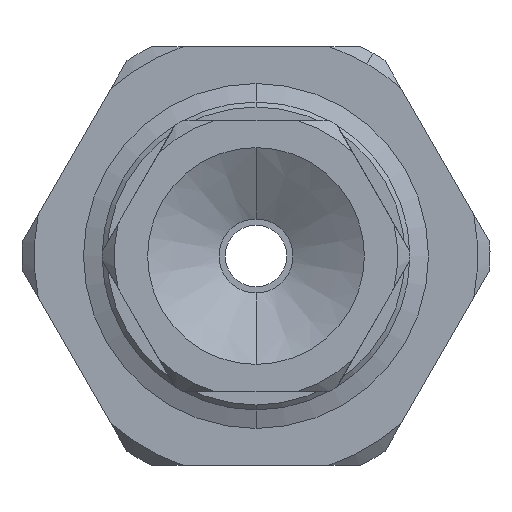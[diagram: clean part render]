
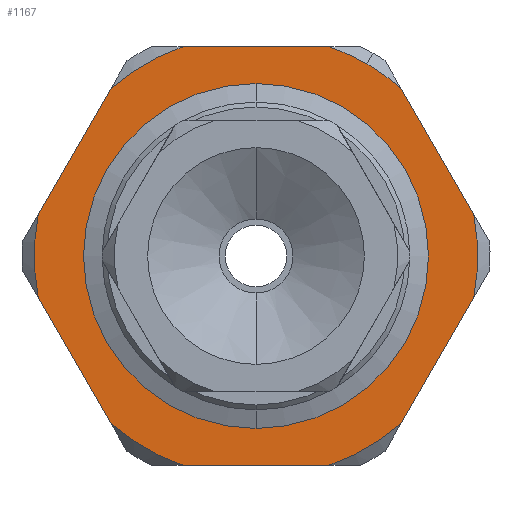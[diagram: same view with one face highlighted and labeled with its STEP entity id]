
A CAD part, front view. The second image highlights one B-rep face of the part: STEP entity #1167.
In plain terms, the highlighted planar face has unit normal (0, -1, 0).
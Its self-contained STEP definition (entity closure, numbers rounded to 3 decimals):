
#22 = ORIENTED_EDGE ( 'NONE', *, *, #12409, .F. ) ;
#46 = AXIS2_PLACEMENT_3D ( 'NONE', #2019, #10780, #3460 ) ;
#68 = EDGE_CURVE ( 'NONE', #8133, #3331, #2583, .T. ) ;
#157 = CARTESIAN_POINT ( 'NONE',  ( 0.177, -0.676, 14.188 ) ) ;
#352 = CARTESIAN_POINT ( 'NONE',  ( -8.664, -0.676, 12.5 ) ) ;
#668 = VECTOR ( 'NONE', #17690, 1000. ) ;
#916 = DIRECTION ( 'NONE',  ( 0., 1., 0. ) ) ;
#942 = VERTEX_POINT ( 'NONE', #2605 ) ;
#1118 = LINE ( 'NONE', #4571, #668 ) ;
#1167 = ADVANCED_FACE ( 'NONE', ( #15589, #12131 ), #18668, .F. ) ;
#1199 = ORIENTED_EDGE ( 'NONE', *, *, #10349, .T. ) ;
#1293 = EDGE_CURVE ( 'NONE', #4708, #4422, #13476, .T. ) ;
#1363 = VERTEX_POINT ( 'NONE', #10474 ) ;
#1499 = CARTESIAN_POINT ( 'NONE',  ( -5.706, -0.676, 21. ) ) ;
#1502 = CARTESIAN_POINT ( 'NONE',  ( -5.706, -0.676, 21. ) ) ;
#2019 = CARTESIAN_POINT ( 'NONE',  ( -5.706, -0.676, 21. ) ) ;
#2047 = DIRECTION ( 'NONE',  ( 0., -1., 0. ) ) ;
#2056 = VERTEX_POINT ( 'NONE', #17253 ) ;
#2136 = VERTEX_POINT ( 'NONE', #157 ) ;
#2169 = CARTESIAN_POINT ( 'NONE',  ( -5.706, -0.676, 29.5 ) ) ;
#2261 = EDGE_CURVE ( 'NONE', #2494, #2056, #11918, .T. ) ;
#2272 = CARTESIAN_POINT ( 'NONE',  ( -5.706, -0.676, 21. ) ) ;
#2494 = VERTEX_POINT ( 'NONE', #3990 ) ;
#2583 = CIRCLE ( 'NONE', #46, 9. ) ;
#2605 = CARTESIAN_POINT ( 'NONE',  ( -2.748, -0.676, 29.5 ) ) ;
#2606 = AXIS2_PLACEMENT_3D ( 'NONE', #1499, #11756, #3002 ) ;
#3002 = DIRECTION ( 'NONE',  ( 0.5, 0., 0.866 ) ) ;
#3007 = DIRECTION ( 'NONE',  ( 0.5, 0., 0.866 ) ) ;
#3331 = VERTEX_POINT ( 'NONE', #11893 ) ;
#3347 = CARTESIAN_POINT ( 'NONE',  ( 3.135, -0.676, 22.688 ) ) ;
#3460 = DIRECTION ( 'NONE',  ( 0.5, 0., 0.866 ) ) ;
#3990 = CARTESIAN_POINT ( 'NONE',  ( -11.588, -0.676, 27.812 ) ) ;
#4041 = AXIS2_PLACEMENT_3D ( 'NONE', #6116, #16406, #7587 ) ;
#4126 = DIRECTION ( 'NONE',  ( 0.5, 0., 0.866 ) ) ;
#4422 = VERTEX_POINT ( 'NONE', #12575 ) ;
#4571 = CARTESIAN_POINT ( 'NONE',  ( -13.067, -0.676, 16.75 ) ) ;
#4621 = VERTEX_POINT ( 'NONE', #7394 ) ;
#4708 = VERTEX_POINT ( 'NONE', #3347 ) ;
#4899 = EDGE_CURVE ( 'NONE', #9005, #4621, #15996, .T. ) ;
#4927 = CIRCLE ( 'NONE', #11253, 9. ) ;
#4966 = DIRECTION ( 'NONE',  ( 0., 1., 0. ) ) ;
#4993 = ORIENTED_EDGE ( 'NONE', *, *, #68, .F. ) ;
#5026 = CARTESIAN_POINT ( 'NONE',  ( 1.656, -0.676, 16.75 ) ) ;
#5335 = AXIS2_PLACEMENT_3D ( 'NONE', #1502, #11761, #3007 ) ;
#5470 = EDGE_CURVE ( 'NONE', #942, #2056, #18251, .T. ) ;
#5505 = ORIENTED_EDGE ( 'NONE', *, *, #5470, .T. ) ;
#5552 = ORIENTED_EDGE ( 'NONE', *, *, #2261, .F. ) ;
#5744 = DIRECTION ( 'NONE',  ( 0.5, 0., 0.866 ) ) ;
#5997 = DIRECTION ( 'NONE',  ( -0.5, 0., 0.866 ) ) ;
#6072 = VECTOR ( 'NONE', #13844, 1000. ) ;
#6116 = CARTESIAN_POINT ( 'NONE',  ( -5.706, -0.676, 21. ) ) ;
#6337 = CARTESIAN_POINT ( 'NONE',  ( -1.206, -0.676, 28.794 ) ) ;
#6415 = CIRCLE ( 'NONE', #4041, 9. ) ;
#6484 = CIRCLE ( 'NONE', #2606, 6.25 ) ;
#6489 = DIRECTION ( 'NONE',  ( 0.5, 0., 0.866 ) ) ;
#6502 = LINE ( 'NONE', #5026, #13853 ) ;
#6828 = CARTESIAN_POINT ( 'NONE',  ( -5.706, -0.676, 21. ) ) ;
#7004 = CARTESIAN_POINT ( 'NONE',  ( -13.067, -0.676, 25.25 ) ) ;
#7120 = EDGE_CURVE ( 'NONE', #8324, #18405, #14658, .T. ) ;
#7218 = ORIENTED_EDGE ( 'NONE', *, *, #9704, .F. ) ;
#7394 = CARTESIAN_POINT ( 'NONE',  ( -8.831, -0.676, 15.587 ) ) ;
#7587 = DIRECTION ( 'NONE',  ( 0.5, 0., 0.866 ) ) ;
#7954 = DIRECTION ( 'NONE',  ( 1., 0., 0. ) ) ;
#8026 = CARTESIAN_POINT ( 'NONE',  ( -5.706, -0.676, 21. ) ) ;
#8129 = VECTOR ( 'NONE', #7954, 1000. ) ;
#8133 = VERTEX_POINT ( 'NONE', #352 ) ;
#8245 = LINE ( 'NONE', #8955, #11659 ) ;
#8298 = DIRECTION ( 'NONE',  ( 0.5, 0., 0.866 ) ) ;
#8324 = VERTEX_POINT ( 'NONE', #9615 ) ;
#8587 = LINE ( 'NONE', #16728, #8129 ) ;
#8735 = EDGE_LOOP ( 'NONE', ( #14311, #11036 ) ) ;
#8766 = ORIENTED_EDGE ( 'NONE', *, *, #7120, .F. ) ;
#8916 = ORIENTED_EDGE ( 'NONE', *, *, #9282, .F. ) ;
#8955 = CARTESIAN_POINT ( 'NONE',  ( 1.656, -0.676, 25.25 ) ) ;
#9005 = VERTEX_POINT ( 'NONE', #12701 ) ;
#9282 = EDGE_CURVE ( 'NONE', #2136, #9977, #6415, .T. ) ;
#9478 = DIRECTION ( 'NONE',  ( 0.5, 0., 0.866 ) ) ;
#9615 = CARTESIAN_POINT ( 'NONE',  ( -14.546, -0.676, 19.312 ) ) ;
#9704 = EDGE_CURVE ( 'NONE', #942, #17238, #12147, .T. ) ;
#9977 = VERTEX_POINT ( 'NONE', #13328 ) ;
#10349 = EDGE_CURVE ( 'NONE', #2494, #18405, #16963, .T. ) ;
#10474 = CARTESIAN_POINT ( 'NONE',  ( 0.177, -0.676, 27.812 ) ) ;
#10509 = EDGE_CURVE ( 'NONE', #4708, #1363, #8245, .T. ) ;
#10780 = DIRECTION ( 'NONE',  ( 0., 1., 0. ) ) ;
#10812 = CARTESIAN_POINT ( 'NONE',  ( -5.706, -0.676, 21. ) ) ;
#11036 = ORIENTED_EDGE ( 'NONE', *, *, #17621, .F. ) ;
#11253 = AXIS2_PLACEMENT_3D ( 'NONE', #8026, #18285, #9478 ) ;
#11328 = ORIENTED_EDGE ( 'NONE', *, *, #17287, .T. ) ;
#11476 = ORIENTED_EDGE ( 'NONE', *, *, #10509, .T. ) ;
#11659 = VECTOR ( 'NONE', #5997, 1000. ) ;
#11746 = AXIS2_PLACEMENT_3D ( 'NONE', #2272, #916, #4126 ) ;
#11756 = DIRECTION ( 'NONE',  ( 0., -1., 0. ) ) ;
#11761 = DIRECTION ( 'NONE',  ( 0., 1., 0. ) ) ;
#11893 = CARTESIAN_POINT ( 'NONE',  ( -11.588, -0.676, 14.188 ) ) ;
#11918 = CIRCLE ( 'NONE', #14271, 9. ) ;
#12021 = CARTESIAN_POINT ( 'NONE',  ( -14.546, -0.676, 22.688 ) ) ;
#12131 = FACE_OUTER_BOUND ( 'NONE', #16853, .T. ) ;
#12147 = CIRCLE ( 'NONE', #17577, 9. ) ;
#12319 = DIRECTION ( 'NONE',  ( 0.5, 0., 0.866 ) ) ;
#12409 = EDGE_CURVE ( 'NONE', #17238, #1363, #4927, .T. ) ;
#12575 = CARTESIAN_POINT ( 'NONE',  ( 3.135, -0.676, 19.312 ) ) ;
#12637 = VECTOR ( 'NONE', #18720, 1000. ) ;
#12701 = CARTESIAN_POINT ( 'NONE',  ( -2.581, -0.676, 26.413 ) ) ;
#12936 = ORIENTED_EDGE ( 'NONE', *, *, #15569, .T. ) ;
#13095 = AXIS2_PLACEMENT_3D ( 'NONE', #17240, #18602, #5744 ) ;
#13328 = CARTESIAN_POINT ( 'NONE',  ( -2.748, -0.676, 12.5 ) ) ;
#13476 = CIRCLE ( 'NONE', #11746, 9. ) ;
#13732 = CARTESIAN_POINT ( 'NONE',  ( -5.706, -0.676, 21. ) ) ;
#13844 = DIRECTION ( 'NONE',  ( -1., 0., 0. ) ) ;
#13853 = VECTOR ( 'NONE', #6489, 1000. ) ;
#14271 = AXIS2_PLACEMENT_3D ( 'NONE', #13732, #4966, #15213 ) ;
#14311 = ORIENTED_EDGE ( 'NONE', *, *, #4899, .F. ) ;
#14658 = CIRCLE ( 'NONE', #5335, 9. ) ;
#15213 = DIRECTION ( 'NONE',  ( 0.5, 0., 0.866 ) ) ;
#15569 = EDGE_CURVE ( 'NONE', #2136, #4422, #6502, .T. ) ;
#15589 = FACE_BOUND ( 'NONE', #8735, .T. ) ;
#15664 = AXIS2_PLACEMENT_3D ( 'NONE', #10812, #2047, #12319 ) ;
#15895 = ORIENTED_EDGE ( 'NONE', *, *, #1293, .F. ) ;
#15996 = CIRCLE ( 'NONE', #15664, 6.25 ) ;
#16406 = DIRECTION ( 'NONE',  ( 0., 1., 0. ) ) ;
#16513 = EDGE_CURVE ( 'NONE', #8324, #3331, #1118, .T. ) ;
#16728 = CARTESIAN_POINT ( 'NONE',  ( -5.706, -0.676, 12.5 ) ) ;
#16853 = EDGE_LOOP ( 'NONE', ( #8766, #16879, #4993, #11328, #8916, #12936, #15895, #11476, #22, #7218, #5505, #5552, #1199 ) ) ;
#16879 = ORIENTED_EDGE ( 'NONE', *, *, #16513, .T. ) ;
#16963 = LINE ( 'NONE', #7004, #12637 ) ;
#17066 = DIRECTION ( 'NONE',  ( 0., 1., 0. ) ) ;
#17238 = VERTEX_POINT ( 'NONE', #6337 ) ;
#17240 = CARTESIAN_POINT ( 'NONE',  ( -17.621, -0.676, 17.362 ) ) ;
#17253 = CARTESIAN_POINT ( 'NONE',  ( -8.664, -0.676, 29.5 ) ) ;
#17287 = EDGE_CURVE ( 'NONE', #8133, #9977, #8587, .T. ) ;
#17577 = AXIS2_PLACEMENT_3D ( 'NONE', #6828, #17066, #8298 ) ;
#17621 = EDGE_CURVE ( 'NONE', #4621, #9005, #6484, .T. ) ;
#17690 = DIRECTION ( 'NONE',  ( 0.5, 0., -0.866 ) ) ;
#18251 = LINE ( 'NONE', #2169, #6072 ) ;
#18285 = DIRECTION ( 'NONE',  ( 0., 1., 0. ) ) ;
#18405 = VERTEX_POINT ( 'NONE', #12021 ) ;
#18602 = DIRECTION ( 'NONE',  ( 0., 1., 0. ) ) ;
#18668 = PLANE ( 'NONE',  #13095 ) ;
#18720 = DIRECTION ( 'NONE',  ( -0.5, 0., -0.866 ) ) ;
